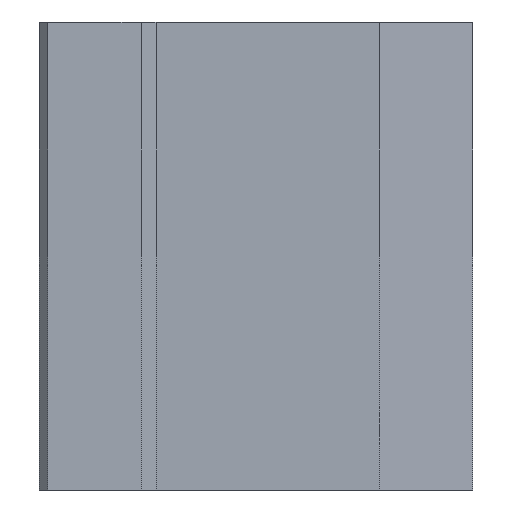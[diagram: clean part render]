
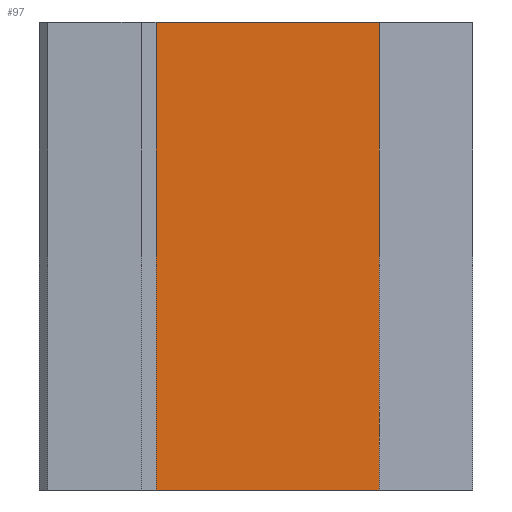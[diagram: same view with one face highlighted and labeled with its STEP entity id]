
A CAD part, left-side view. The second image highlights one B-rep face of the part: STEP entity #97.
In plain terms, the highlighted planar face has unit normal (-1, 0, 0).
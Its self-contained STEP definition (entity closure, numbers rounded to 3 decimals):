
#97=ADVANCED_FACE('',(#196),#197,.F.);
#196=FACE_OUTER_BOUND('',#357,.T.);
#197=PLANE('',#358);
#357=EDGE_LOOP('',(#667,#668,#669,#670));
#358=AXIS2_PLACEMENT_3D('',#671,#672,#673);
#667=ORIENTED_EDGE('',*,*,#1019,.T.);
#668=ORIENTED_EDGE('',*,*,#1046,.F.);
#669=ORIENTED_EDGE('',*,*,#981,.F.);
#670=ORIENTED_EDGE('',*,*,#1047,.T.);
#671=CARTESIAN_POINT('',(-57.5,24.5,55.0));
#672=DIRECTION('',(1.0,0.0,0.0));
#673=DIRECTION('',(0.0,1.0,0.0));
#981=EDGE_CURVE('',#1151,#1153,#1154,.T.);
#1019=EDGE_CURVE('',#1229,#1227,#1230,.T.);
#1046=EDGE_CURVE('',#1153,#1227,#1266,.T.);
#1047=EDGE_CURVE('',#1151,#1229,#1267,.T.);
#1151=VERTEX_POINT('',#1419);
#1153=VERTEX_POINT('',#1422);
#1154=LINE('',#1423,#1424);
#1227=VERTEX_POINT('',#1529);
#1229=VERTEX_POINT('',#1532);
#1230=LINE('',#1533,#1534);
#1266=LINE('',#1590,#1591);
#1267=LINE('',#1592,#1593);
#1419=CARTESIAN_POINT('',(-57.5,24.5,55.0));
#1422=CARTESIAN_POINT('',(-57.5,-28.0,55.0));
#1423=CARTESIAN_POINT('',(-57.5,24.5,55.0));
#1424=VECTOR('',#1765,1.0);
#1529=CARTESIAN_POINT('',(-57.5,-28.0,-55.0));
#1532=CARTESIAN_POINT('',(-57.5,24.5,-55.0));
#1533=CARTESIAN_POINT('',(-57.5,24.5,-55.0));
#1534=VECTOR('',#1811,1.0);
#1590=CARTESIAN_POINT('',(-57.5,-28.0,55.0));
#1591=VECTOR('',#1850,1.0);
#1592=CARTESIAN_POINT('',(-57.5,24.5,55.0));
#1593=VECTOR('',#1851,1.0);
#1765=DIRECTION('',(0.0,-1.0,0.0));
#1811=DIRECTION('',(0.0,-1.0,0.0));
#1850=DIRECTION('',(0.0,0.0,-1.0));
#1851=DIRECTION('',(0.0,0.0,-1.0));
